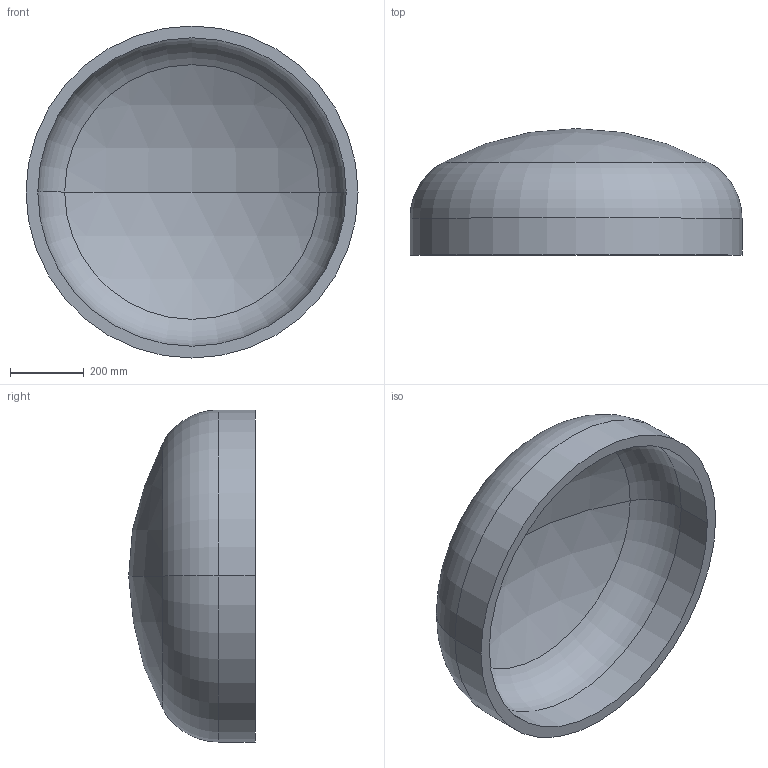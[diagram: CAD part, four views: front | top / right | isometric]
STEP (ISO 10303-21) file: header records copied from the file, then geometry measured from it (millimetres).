
FILE_DESCRIPTION (( 'STEP AP203' ), '1' );
FILE_NAME ('DIN 28013 Korbbogenform_-_Boden DIN 28013 - 900 x 100 - I - s=32.step', '2016-07-01T08:29:43', ( '' ), ( '' ), 'SwSTEP 2.0', 'SolidWorks 2013', '' );
FILE_SCHEMA (( 'CONFIG_CONTROL_DESIGN' ));
Length unit declared in the file: millimetre
Products named in the file (1): DIN 28013 Korbbogenform_-_Boden DIN 28013 - 900 x 100 - I - s=32
Bounding box: 900 x 342.97 x 900 mm (x, y, z)
Volume: 35701882.7 mm3; surface area: 2320772.6 mm2
Topology: 1 solids, 1 shells, 13 faces, 24 edges, 14 vertices
Faces by surface type: torus 4, cylinder 4, sphere 4, plane 1
Entity records: 407 total; most frequent: DIRECTION 72, CARTESIAN_POINT 52, ORIENTED_EDGE 48, AXIS2_PLACEMENT_3D 34, EDGE_CURVE 24, CIRCLE 20, VERTEX_POINT 14, EDGE_LOOP 14
